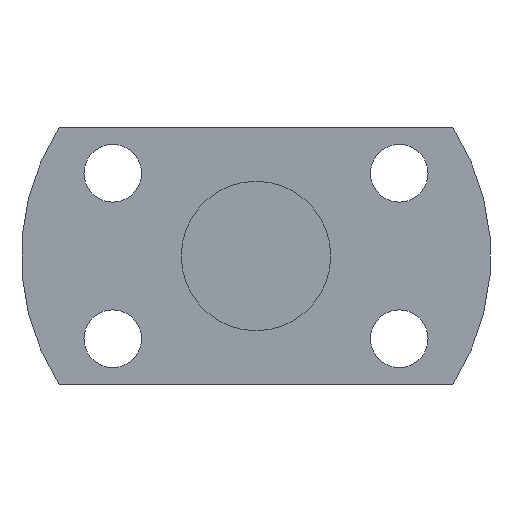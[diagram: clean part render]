
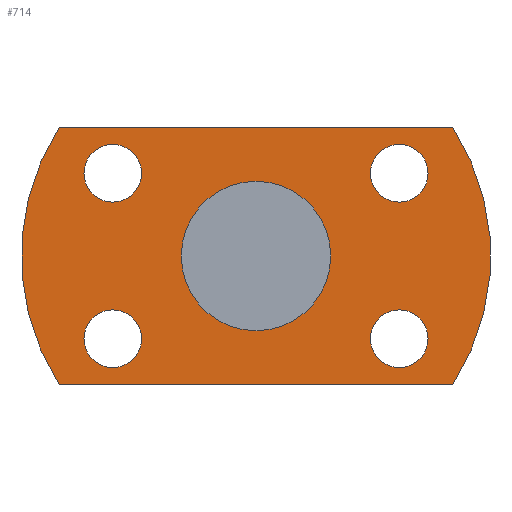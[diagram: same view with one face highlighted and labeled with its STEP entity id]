
A CAD part, left-side view. The second image highlights one B-rep face of the part: STEP entity #714.
In plain terms, the highlighted planar face has unit normal (-1, 0, 0).
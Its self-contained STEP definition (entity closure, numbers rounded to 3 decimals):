
#230=CARTESIAN_POINT('',(135.0,13.423,-5.05));
#231=VERTEX_POINT('',#230);
#232=CARTESIAN_POINT('',(135.0,13.423,-7.75));
#233=DIRECTION('',(1.0,0.0,0.0));
#234=DIRECTION('',(0.0,0.0,1.0));
#235=AXIS2_PLACEMENT_3D('',#232,#233,#234);
#236=CIRCLE('',#235,2.7);
#237=EDGE_CURVE('',#231,#231,#236,.T.);
#279=CARTESIAN_POINT('',(135.0,-13.423,10.45));
#280=VERTEX_POINT('',#279);
#281=CARTESIAN_POINT('',(135.0,-13.423,7.75));
#282=DIRECTION('',(1.0,0.0,0.0));
#283=DIRECTION('',(0.0,0.0,1.0));
#284=AXIS2_PLACEMENT_3D('',#281,#282,#283);
#285=CIRCLE('',#284,2.7);
#286=EDGE_CURVE('',#280,#280,#285,.T.);
#328=CARTESIAN_POINT('',(135.0,-13.423,-5.05));
#329=VERTEX_POINT('',#328);
#330=CARTESIAN_POINT('',(135.0,-13.423,-7.75));
#331=DIRECTION('',(1.0,0.0,0.0));
#332=DIRECTION('',(0.0,0.0,1.0));
#333=AXIS2_PLACEMENT_3D('',#330,#331,#332);
#334=CIRCLE('',#333,2.7);
#335=EDGE_CURVE('',#329,#329,#334,.T.);
#377=CARTESIAN_POINT('',(135.0,13.423,10.45));
#378=VERTEX_POINT('',#377);
#379=CARTESIAN_POINT('',(135.0,13.423,7.75));
#380=DIRECTION('',(1.0,0.0,0.0));
#381=DIRECTION('',(0.0,0.0,1.0));
#382=AXIS2_PLACEMENT_3D('',#379,#380,#381);
#383=CIRCLE('',#382,2.7);
#384=EDGE_CURVE('',#378,#378,#383,.T.);
#548=CARTESIAN_POINT('',(135.0,-18.439,-12.));
#549=VERTEX_POINT('',#548);
#556=CARTESIAN_POINT('',(135.0,18.439,-12.));
#557=VERTEX_POINT('',#556);
#558=CARTESIAN_POINT('',(135.0,18.439,-12.));
#559=DIRECTION('',(0.0,-1.0,0.0));
#560=VECTOR('',#559,36.878);
#561=LINE('',#558,#560);
#562=EDGE_CURVE('',#557,#549,#561,.T.);
#579=CARTESIAN_POINT('',(135.0,-18.439,12.));
#580=VERTEX_POINT('',#579);
#587=CARTESIAN_POINT('',(135.0,0.0,0.0));
#588=DIRECTION('',(-1.0,0.0,0.0));
#589=DIRECTION('',(0.0,0.0,1.0));
#590=AXIS2_PLACEMENT_3D('',#587,#588,#589);
#591=CIRCLE('',#590,22.0);
#592=EDGE_CURVE('',#549,#580,#591,.T.);
#604=CARTESIAN_POINT('',(135.0,18.439,12.));
#605=VERTEX_POINT('',#604);
#612=CARTESIAN_POINT('',(135.0,-18.439,12.));
#613=DIRECTION('',(0.0,1.0,0.0));
#614=VECTOR('',#613,36.878);
#615=LINE('',#612,#614);
#616=EDGE_CURVE('',#580,#605,#615,.T.);
#629=CARTESIAN_POINT('',(135.0,0.0,0.0));
#630=DIRECTION('',(-1.0,0.0,0.0));
#631=DIRECTION('',(0.0,0.0,1.0));
#632=AXIS2_PLACEMENT_3D('',#629,#630,#631);
#633=CIRCLE('',#632,22.0);
#634=EDGE_CURVE('',#605,#557,#633,.T.);
#680=CARTESIAN_POINT('',(135.0,0.0,9.0));
#681=DIRECTION('',(-1.0,0.0,0.0));
#682=DIRECTION('',(0.0,0.0,1.0));
#683=AXIS2_PLACEMENT_3D('',#680,#681,#682);
#684=PLANE('',#683);
#685=ORIENTED_EDGE('',*,*,#634,.T.);
#686=ORIENTED_EDGE('',*,*,#562,.T.);
#687=ORIENTED_EDGE('',*,*,#592,.T.);
#688=ORIENTED_EDGE('',*,*,#616,.T.);
#689=EDGE_LOOP('',(#685,#686,#687,#688));
#690=FACE_OUTER_BOUND('',#689,.T.);
#691=ORIENTED_EDGE('',*,*,#237,.T.);
#692=EDGE_LOOP('',(#691));
#693=FACE_BOUND('',#692,.T.);
#694=ORIENTED_EDGE('',*,*,#286,.T.);
#695=EDGE_LOOP('',(#694));
#696=FACE_BOUND('',#695,.T.);
#697=ORIENTED_EDGE('',*,*,#335,.T.);
#698=EDGE_LOOP('',(#697));
#699=FACE_BOUND('',#698,.T.);
#700=ORIENTED_EDGE('',*,*,#384,.T.);
#701=EDGE_LOOP('',(#700));
#702=FACE_BOUND('',#701,.T.);
#703=CARTESIAN_POINT('',(135.0,0.0,7.));
#704=VERTEX_POINT('',#703);
#705=CARTESIAN_POINT('',(135.0,0.0,0.0));
#706=DIRECTION('',(-1.0,0.0,0.0));
#707=DIRECTION('',(0.0,0.0,1.0));
#708=AXIS2_PLACEMENT_3D('',#705,#706,#707);
#709=CIRCLE('',#708,7.);
#710=EDGE_CURVE('',#704,#704,#709,.T.);
#711=ORIENTED_EDGE('',*,*,#710,.F.);
#712=EDGE_LOOP('',(#711));
#713=FACE_BOUND('',#712,.T.);
#714=ADVANCED_FACE('',(#690,#693,#696,#699,#702,#713),#684,.T.);
